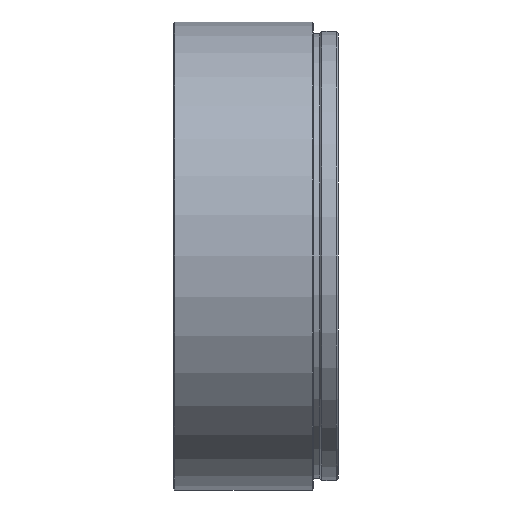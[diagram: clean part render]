
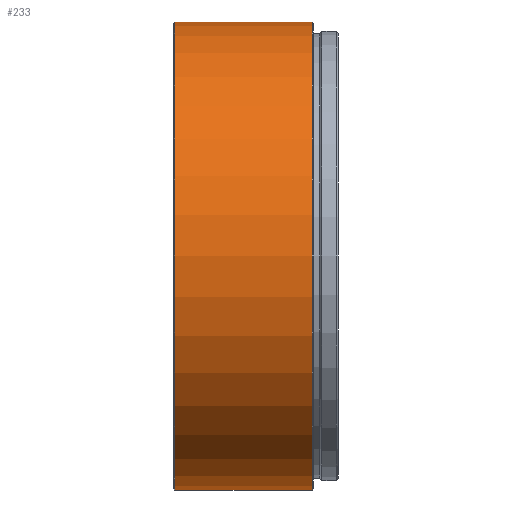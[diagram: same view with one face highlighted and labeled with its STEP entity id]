
A CAD part, front view. The second image highlights one B-rep face of the part: STEP entity #233.
In plain terms, the highlighted cylindrical face has radius 37.5 mm (diameter 75 mm), a partial arc.
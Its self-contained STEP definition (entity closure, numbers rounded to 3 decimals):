
#3 = VERTEX_POINT ( 'NONE', #354 ) ;
#23 = CARTESIAN_POINT ( 'NONE',  ( 0., 0., 37.5 ) ) ;
#28 = VECTOR ( 'NONE', #741, 1000. ) ;
#43 = CARTESIAN_POINT ( 'NONE',  ( 0., 0., -37.5 ) ) ;
#67 = DIRECTION ( 'NONE',  ( -1., 0., 0. ) ) ;
#70 = DIRECTION ( 'NONE',  ( -1., 0., 0. ) ) ;
#168 = DIRECTION ( 'NONE',  ( 0., 0., 1. ) ) ;
#179 = FACE_OUTER_BOUND ( 'NONE', #511, .T. ) ;
#208 = AXIS2_PLACEMENT_3D ( 'NONE', #442, #593, #168 ) ;
#230 = AXIS2_PLACEMENT_3D ( 'NONE', #412, #907, #485 ) ;
#233 = ADVANCED_FACE ( 'NONE', ( #179 ), #565, .T. ) ;
#241 = ORIENTED_EDGE ( 'NONE', *, *, #584, .T. ) ;
#256 = VERTEX_POINT ( 'NONE', #793 ) ;
#277 = ORIENTED_EDGE ( 'NONE', *, *, #379, .F. ) ;
#280 = CARTESIAN_POINT ( 'NONE',  ( 22.2, 0., 37.5 ) ) ;
#287 = LINE ( 'NONE', #43, #28 ) ;
#312 = ORIENTED_EDGE ( 'NONE', *, *, #435, .F. ) ;
#325 = CARTESIAN_POINT ( 'NONE',  ( 22.2, 0., -37.5 ) ) ;
#329 = CIRCLE ( 'NONE', #230, 37.5 ) ;
#354 = CARTESIAN_POINT ( 'NONE',  ( 0.2, 0., -37.5 ) ) ;
#379 = EDGE_CURVE ( 'NONE', #455, #3, #287, .T. ) ;
#412 = CARTESIAN_POINT ( 'NONE',  ( 22.2, 0., 0. ) ) ;
#435 = EDGE_CURVE ( 'NONE', #3, #256, #665, .T. ) ;
#442 = CARTESIAN_POINT ( 'NONE',  ( 0., 0., 0. ) ) ;
#455 = VERTEX_POINT ( 'NONE', #325 ) ;
#485 = DIRECTION ( 'NONE',  ( 0., 0., 1. ) ) ;
#507 = VECTOR ( 'NONE', #70, 1000. ) ;
#511 = EDGE_LOOP ( 'NONE', ( #277, #241, #630, #312 ) ) ;
#512 = AXIS2_PLACEMENT_3D ( 'NONE', #767, #67, #829 ) ;
#530 = LINE ( 'NONE', #23, #507 ) ;
#565 = CYLINDRICAL_SURFACE ( 'NONE', #208, 37.5 ) ;
#584 = EDGE_CURVE ( 'NONE', #455, #661, #329, .T. ) ;
#593 = DIRECTION ( 'NONE',  ( -1., 0., 0. ) ) ;
#630 = ORIENTED_EDGE ( 'NONE', *, *, #713, .T. ) ;
#661 = VERTEX_POINT ( 'NONE', #280 ) ;
#665 = CIRCLE ( 'NONE', #512, 37.5 ) ;
#713 = EDGE_CURVE ( 'NONE', #661, #256, #530, .T. ) ;
#741 = DIRECTION ( 'NONE',  ( -1., 0., 0. ) ) ;
#767 = CARTESIAN_POINT ( 'NONE',  ( 0.2, 0., 0. ) ) ;
#793 = CARTESIAN_POINT ( 'NONE',  ( 0.2, 0., 37.5 ) ) ;
#829 = DIRECTION ( 'NONE',  ( 0., 0., 1. ) ) ;
#907 = DIRECTION ( 'NONE',  ( -1., 0., 0. ) ) ;
